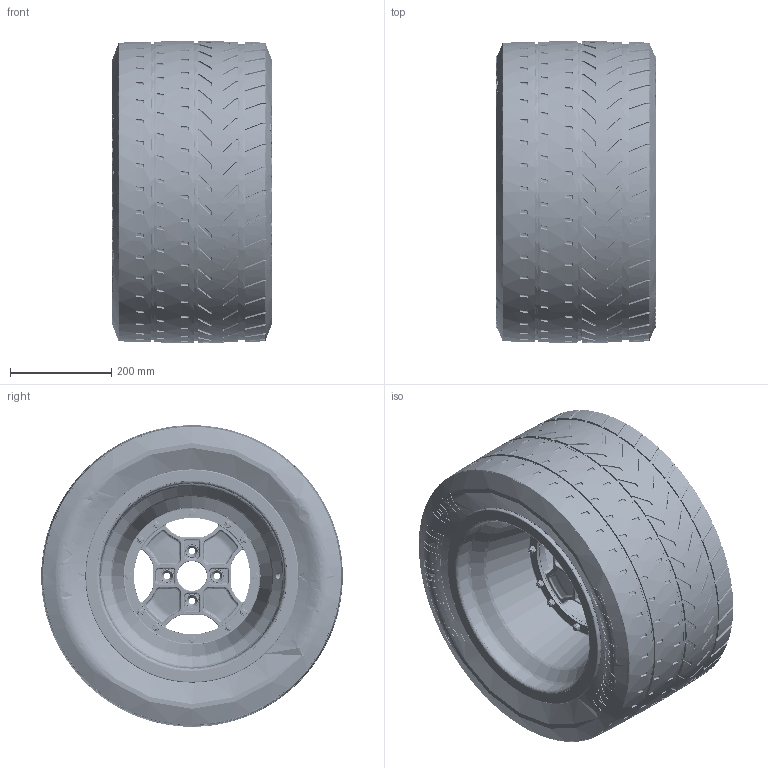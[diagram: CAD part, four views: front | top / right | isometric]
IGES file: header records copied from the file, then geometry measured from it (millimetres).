
Start section: SolidWorks IGES file using analytic representation for surfaces
Global section: file name: D:\Ïðîåêòè è ÷àñòè\Fiat 131 abarth gr4 cromodora wheels\Fiat 131 abarth gr4 cromodora rear wheels 11x15\Fiat 131 abarth gr4 cromodora rear wheels 11x15.IGS; native system: SolidWorks 2019; preprocessor: SolidWorks 2019; author: GOD; date: 250308.095147; units: millimetre
Bounding box: 317 x 595.4 x 595.4 mm (x, y, z)
Surface area: 2783098.9 mm2 (no closed solid volume)
Topology: 0 solids, 0 shells, 7227 faces, 79832 edges, 79384 vertices
Faces by surface type: bspline 4868, revolution 2359
